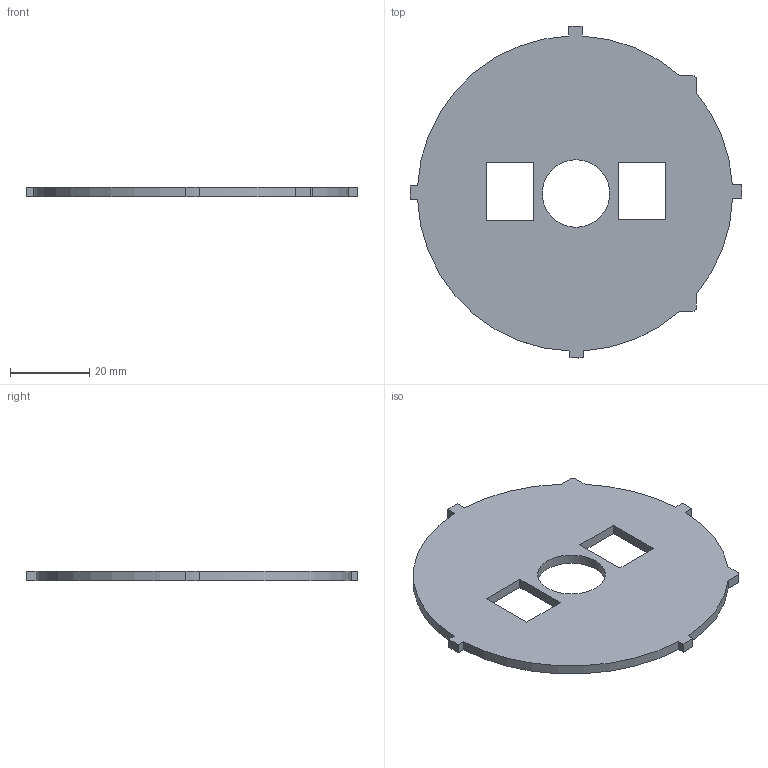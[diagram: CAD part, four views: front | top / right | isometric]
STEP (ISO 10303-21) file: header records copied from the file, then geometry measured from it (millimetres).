
FILE_DESCRIPTION(/* description */ (''),/* implementation_level */ '2;1');
FILE_NAME(/* name */ 'Lid.step',/* time_stamp */ '2026-07-17T11:57:39+01:00',/* author */ (''),/* organization */ (''),/* preprocessor_version */ 'ST-DEVELOPER v20.1',/* originating_system */ 'Autodesk Translation Framework v15.8.0.0',/* authorisation */ '');
FILE_SCHEMA (('AUTOMOTIVE_DESIGN { 1 0 10303 214 3 1 1 }'));
Length unit declared in the file: millimetre
Products named in the file (1): Lid
Bounding box: 83.63 x 83.63 x 2.5 mm (x, y, z)
Volume: 11063.9 mm3; surface area: 9925 mm2
Topology: 1 solids, 1 shells, 35 faces, 99 edges, 66 vertices
Faces by surface type: plane 22, cylinder 13
Full cylindrical faces by diameter (mm): 17 x1
Entity records: 1191 total; most frequent: CARTESIAN_POINT 201, ORIENTED_EDGE 198, DIRECTION 197, EDGE_CURVE 99, LINE 73, VECTOR 73, VERTEX_POINT 66, AXIS2_PLACEMENT_3D 62
